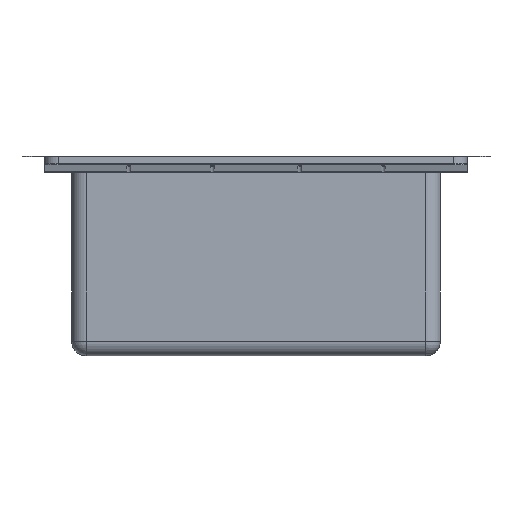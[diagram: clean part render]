
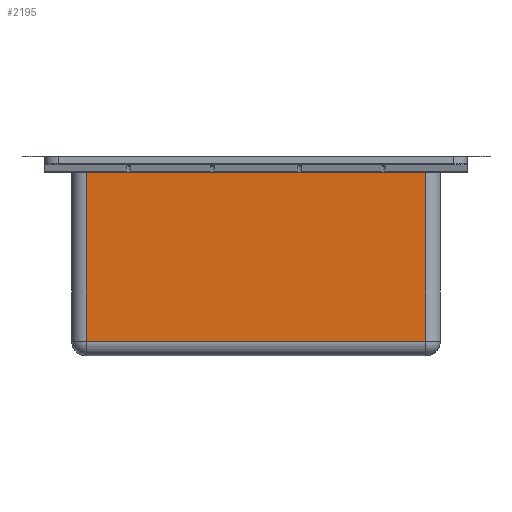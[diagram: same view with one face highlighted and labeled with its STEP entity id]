
A CAD part, left-side view. The second image highlights one B-rep face of the part: STEP entity #2195.
In plain terms, the highlighted planar face has unit normal (-1, 0, 0).
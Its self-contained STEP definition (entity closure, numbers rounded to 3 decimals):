
#2112=CARTESIAN_POINT('Vertex',(44.,-185.,-17.8)) ;
#2115=CARTESIAN_POINT('Line Origine',(44.,-185.,-117.8)) ;
#2119=CARTESIAN_POINT('Vertex',(44.,-185.,-201.8)) ;
#2165=CARTESIAN_POINT('Axis2P3D Location',(44.,-185.,-17.8)) ;
#2170=CARTESIAN_POINT('Line Origine',(44.,0.,-17.8)) ;
#2174=CARTESIAN_POINT('Vertex',(44.,185.,-17.8)) ;
#2177=CARTESIAN_POINT('Line Origine',(44.,185.,-109.8)) ;
#2181=CARTESIAN_POINT('Vertex',(44.,185.,-201.8)) ;
#2184=CARTESIAN_POINT('Line Origine',(44.,0.,-201.8)) ;
#2116=DIRECTION('Vector Direction',(0.,0.,1.)) ;
#2166=DIRECTION('Axis2P3D Direction',(-1.,0.,0.)) ;
#2167=DIRECTION('Axis2P3D XDirection',(0.,1.,0.)) ;
#2171=DIRECTION('Vector Direction',(0.,1.,0.)) ;
#2178=DIRECTION('Vector Direction',(0.,0.,-1.)) ;
#2185=DIRECTION('Vector Direction',(0.,1.,0.)) ;
#2168=AXIS2_PLACEMENT_3D('Plane Axis2P3D',#2165,#2166,#2167) ;
#2190=ORIENTED_EDGE('',*,*,#2121,.F.) ;
#2191=ORIENTED_EDGE('',*,*,#2176,.F.) ;
#2192=ORIENTED_EDGE('',*,*,#2183,.T.) ;
#2193=ORIENTED_EDGE('',*,*,#2188,.T.) ;
#2117=VECTOR('Line Direction',#2116,1.) ;
#2172=VECTOR('Line Direction',#2171,1.) ;
#2179=VECTOR('Line Direction',#2178,1.) ;
#2186=VECTOR('Line Direction',#2185,1.) ;
#2195=ADVANCED_FACE('Vasca-CTP',(#2194),#2169,.T.) ;
#2121=EDGE_CURVE('',#2113,#2120,#2118,.F.) ;
#2176=EDGE_CURVE('',#2175,#2113,#2173,.F.) ;
#2183=EDGE_CURVE('',#2175,#2182,#2180,.T.) ;
#2188=EDGE_CURVE('',#2182,#2120,#2187,.F.) ;
#2189=EDGE_LOOP('',(#2190,#2191,#2192,#2193)) ;
#2194=FACE_OUTER_BOUND('',#2189,.T.) ;
#2118=LINE('Line',#2115,#2117) ;
#2173=LINE('Line',#2170,#2172) ;
#2180=LINE('Line',#2177,#2179) ;
#2187=LINE('Line',#2184,#2186) ;
#2169=PLANE('',#2168) ;
#2113=VERTEX_POINT('',#2112) ;
#2120=VERTEX_POINT('',#2119) ;
#2175=VERTEX_POINT('',#2174) ;
#2182=VERTEX_POINT('',#2181) ;
